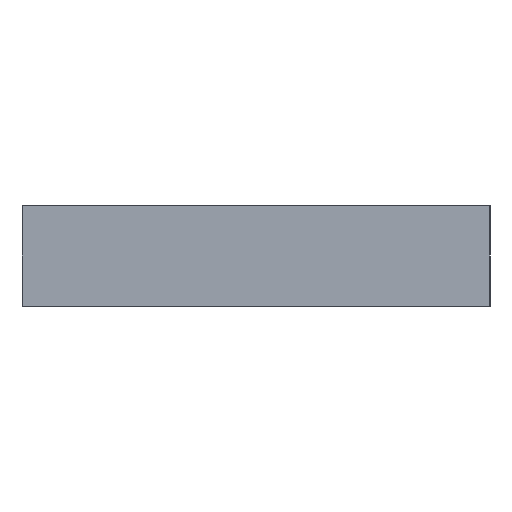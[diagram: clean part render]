
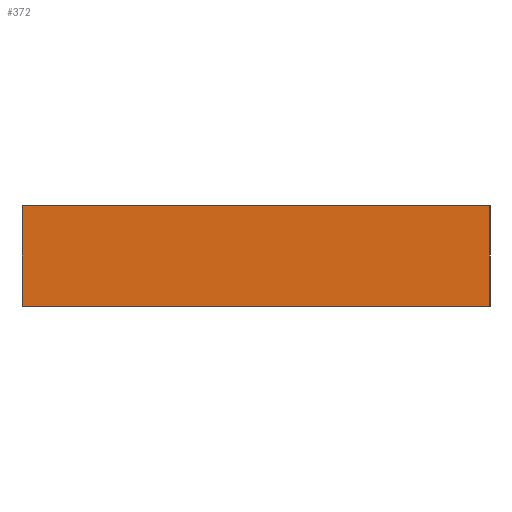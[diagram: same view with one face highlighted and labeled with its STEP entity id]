
A CAD part, front view. The second image highlights one B-rep face of the part: STEP entity #372.
In plain terms, the highlighted planar face has unit normal (0, -1, 0).
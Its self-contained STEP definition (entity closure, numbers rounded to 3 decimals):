
#10 = PLANE ( 'NONE',  #88 ) ;
#36 = DIRECTION ( 'NONE',  ( 0., 0., -1. ) ) ;
#76 = DIRECTION ( 'NONE',  ( 0., 0., 1. ) ) ;
#88 = AXIS2_PLACEMENT_3D ( 'NONE', #168, #311, #76 ) ;
#93 = VERTEX_POINT ( 'NONE', #403 ) ;
#96 = CARTESIAN_POINT ( 'NONE',  ( 0., -758.5, 3. ) ) ;
#133 = EDGE_CURVE ( 'NONE', #149, #93, #643, .T. ) ;
#148 = FACE_OUTER_BOUND ( 'NONE', #642, .T. ) ;
#149 = VERTEX_POINT ( 'NONE', #236 ) ;
#168 = CARTESIAN_POINT ( 'NONE',  ( 0., -758.5, 3. ) ) ;
#178 = CARTESIAN_POINT ( 'NONE',  ( 7., -758.5, 3. ) ) ;
#226 = VECTOR ( 'NONE', #416, 1000. ) ;
#233 = EDGE_CURVE ( 'NONE', #551, #93, #385, .T. ) ;
#236 = CARTESIAN_POINT ( 'NONE',  ( 7., -758.5, 3. ) ) ;
#272 = VECTOR ( 'NONE', #682, 1000. ) ;
#311 = DIRECTION ( 'NONE',  ( 0., 1., 0. ) ) ;
#330 = VECTOR ( 'NONE', #486, 1000. ) ;
#343 = ORIENTED_EDGE ( 'NONE', *, *, #699, .F. ) ;
#349 = LINE ( 'NONE', #96, #330 ) ;
#362 = CARTESIAN_POINT ( 'NONE',  ( -7., -758.5, 3. ) ) ;
#372 = ADVANCED_FACE ( 'NONE', ( #148 ), #10, .F. ) ;
#375 = ORIENTED_EDGE ( 'NONE', *, *, #777, .T. ) ;
#385 = LINE ( 'NONE', #412, #226 ) ;
#403 = CARTESIAN_POINT ( 'NONE',  ( 7., -758.5, 0. ) ) ;
#412 = CARTESIAN_POINT ( 'NONE',  ( 0., -758.5, 0. ) ) ;
#416 = DIRECTION ( 'NONE',  ( 1., 0., 0. ) ) ;
#473 = VECTOR ( 'NONE', #36, 1000. ) ;
#486 = DIRECTION ( 'NONE',  ( 1., 0., 0. ) ) ;
#514 = VERTEX_POINT ( 'NONE', #681 ) ;
#551 = VERTEX_POINT ( 'NONE', #675 ) ;
#560 = ORIENTED_EDGE ( 'NONE', *, *, #233, .T. ) ;
#642 = EDGE_LOOP ( 'NONE', ( #560, #693, #343, #375 ) ) ;
#643 = LINE ( 'NONE', #178, #473 ) ;
#675 = CARTESIAN_POINT ( 'NONE',  ( -7., -758.5, 0. ) ) ;
#681 = CARTESIAN_POINT ( 'NONE',  ( -7., -758.5, 3. ) ) ;
#682 = DIRECTION ( 'NONE',  ( 0., 0., -1. ) ) ;
#693 = ORIENTED_EDGE ( 'NONE', *, *, #133, .F. ) ;
#699 = EDGE_CURVE ( 'NONE', #514, #149, #349, .T. ) ;
#771 = LINE ( 'NONE', #362, #272 ) ;
#777 = EDGE_CURVE ( 'NONE', #514, #551, #771, .T. ) ;
